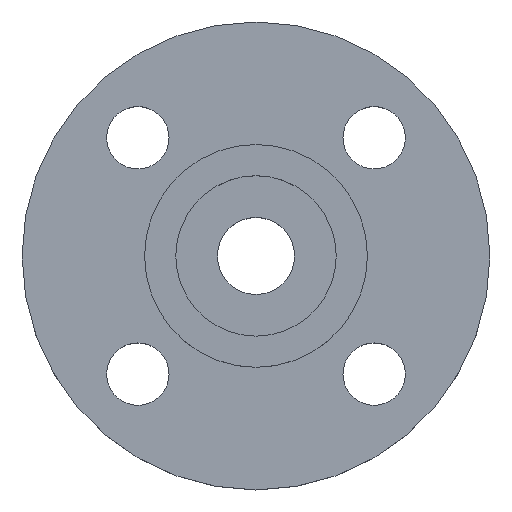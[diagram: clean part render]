
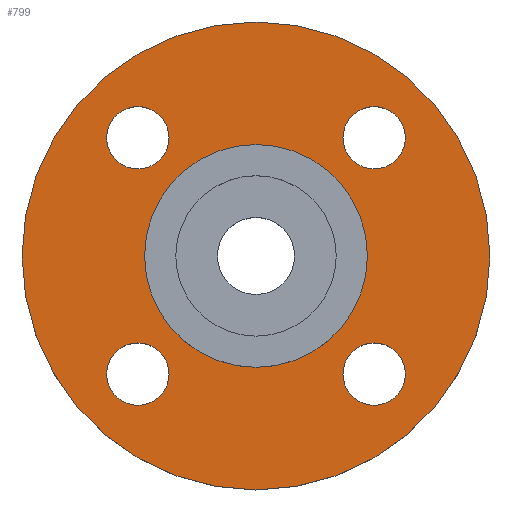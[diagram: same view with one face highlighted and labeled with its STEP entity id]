
A CAD part, top view. The second image highlights one B-rep face of the part: STEP entity #799.
In plain terms, the highlighted planar face has unit normal (0, 0, 1).
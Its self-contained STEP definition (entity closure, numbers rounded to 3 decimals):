
#17 = DIRECTION ( 'NONE',  ( 1., 0., 0. ) ) ;
#18 = DIRECTION ( 'NONE',  ( 0., 0., 1. ) ) ;
#20 = CIRCLE ( 'NONE', #24, 52.5 ) ;
#21 = CARTESIAN_POINT ( 'NONE',  ( 25., 0., -4.5 ) ) ;
#23 = PLANE ( 'NONE',  #630 ) ;
#24 = AXIS2_PLACEMENT_3D ( 'NONE', #64, #62, #61 ) ;
#26 = AXIS2_PLACEMENT_3D ( 'NONE', #48, #43, #42 ) ;
#27 = FACE_OUTER_BOUND ( 'NONE', #496, .T. ) ;
#29 = FACE_BOUND ( 'NONE', #303, .T. ) ;
#30 = FACE_BOUND ( 'NONE', #455, .T. ) ;
#31 = FACE_BOUND ( 'NONE', #535, .T. ) ;
#32 = FACE_BOUND ( 'NONE', #526, .T. ) ;
#34 = FACE_BOUND ( 'NONE', #301, .T. ) ;
#42 = DIRECTION ( 'NONE',  ( 1., 0., 0. ) ) ;
#43 = DIRECTION ( 'NONE',  ( 0., 0., -1. ) ) ;
#48 = CARTESIAN_POINT ( 'NONE',  ( 26.517, -26.517, -4.5 ) ) ;
#61 = DIRECTION ( 'NONE',  ( -1., 0., 0. ) ) ;
#62 = DIRECTION ( 'NONE',  ( 0., 0., -1. ) ) ;
#64 = CARTESIAN_POINT ( 'NONE',  ( 0., 0., -4.5 ) ) ;
#79 = AXIS2_PLACEMENT_3D ( 'NONE', #716, #717, #718 ) ;
#88 = DIRECTION ( 'NONE',  ( 1., 0., 0. ) ) ;
#89 = DIRECTION ( 'NONE',  ( 0., 0., -1. ) ) ;
#90 = CARTESIAN_POINT ( 'NONE',  ( 26.517, -26.517, -4.5 ) ) ;
#100 = CARTESIAN_POINT ( 'NONE',  ( -19.517, -26.517, -4.5 ) ) ;
#103 = EDGE_CURVE ( 'NONE', #316, #516, #440, .T. ) ;
#114 = CARTESIAN_POINT ( 'NONE',  ( -33.517, -26.517, -4.5 ) ) ;
#131 = DIRECTION ( 'NONE',  ( 1., 0., 0. ) ) ;
#132 = DIRECTION ( 'NONE',  ( 0., 0., -1. ) ) ;
#134 = CARTESIAN_POINT ( 'NONE',  ( 26.517, 26.517, -4.5 ) ) ;
#137 = CARTESIAN_POINT ( 'NONE',  ( -19.517, 26.517, -4.5 ) ) ;
#152 = DIRECTION ( 'NONE',  ( 1., 0., 0. ) ) ;
#153 = DIRECTION ( 'NONE',  ( 0., 0., -1. ) ) ;
#157 = CARTESIAN_POINT ( 'NONE',  ( -26.517, -26.517, -4.5 ) ) ;
#159 = CARTESIAN_POINT ( 'NONE',  ( 19.517, 26.517, -4.5 ) ) ;
#176 = CIRCLE ( 'NONE', #26, 7. ) ;
#185 = CARTESIAN_POINT ( 'NONE',  ( -26.517, -26.517, -4.5 ) ) ;
#226 = CARTESIAN_POINT ( 'NONE',  ( -25., 0., -4.5 ) ) ;
#230 = CARTESIAN_POINT ( 'NONE',  ( -52.5, 0., -4.5 ) ) ;
#232 = EDGE_CURVE ( 'NONE', #529, #314, #284, .T. ) ;
#239 = CIRCLE ( 'NONE', #79, 7. ) ;
#241 = DIRECTION ( 'NONE',  ( 0., 0., -1. ) ) ;
#246 = AXIS2_PLACEMENT_3D ( 'NONE', #657, #658, #659 ) ;
#251 = EDGE_CURVE ( 'NONE', #306, #536, #275, .T. ) ;
#257 = CIRCLE ( 'NONE', #271, 7. ) ;
#269 = VERTEX_POINT ( 'NONE', #679 ) ;
#271 = AXIS2_PLACEMENT_3D ( 'NONE', #90, #89, #88 ) ;
#275 = CIRCLE ( 'NONE', #387, 7. ) ;
#281 = EDGE_CURVE ( 'NONE', #533, #312, #502, .T. ) ;
#284 = CIRCLE ( 'NONE', #246, 7. ) ;
#285 = CIRCLE ( 'NONE', #289, 7. ) ;
#289 = AXIS2_PLACEMENT_3D ( 'NONE', #157, #153, #152 ) ;
#301 = EDGE_LOOP ( 'NONE', ( #414, #415 ) ) ;
#303 = EDGE_LOOP ( 'NONE', ( #423, #424 ) ) ;
#306 = VERTEX_POINT ( 'NONE', #708 ) ;
#309 = EDGE_CURVE ( 'NONE', #536, #306, #239, .T. ) ;
#310 = AXIS2_PLACEMENT_3D ( 'NONE', #185, #241, #385 ) ;
#311 = VERTEX_POINT ( 'NONE', #720 ) ;
#312 = VERTEX_POINT ( 'NONE', #721 ) ;
#314 = VERTEX_POINT ( 'NONE', #722 ) ;
#316 = VERTEX_POINT ( 'NONE', #735 ) ;
#321 = EDGE_CURVE ( 'NONE', #312, #533, #763, .T. ) ;
#340 = AXIS2_PLACEMENT_3D ( 'NONE', #134, #132, #131 ) ;
#368 = EDGE_CURVE ( 'NONE', #568, #560, #285, .T. ) ;
#385 = DIRECTION ( 'NONE',  ( 1., 0., 0. ) ) ;
#387 = AXIS2_PLACEMENT_3D ( 'NONE', #785, #787, #788 ) ;
#414 = ORIENTED_EDGE ( 'NONE', *, *, #584, .T. ) ;
#415 = ORIENTED_EDGE ( 'NONE', *, *, #780, .T. ) ;
#416 = ORIENTED_EDGE ( 'NONE', *, *, #368, .T. ) ;
#417 = ORIENTED_EDGE ( 'NONE', *, *, #515, .T. ) ;
#418 = ORIENTED_EDGE ( 'NONE', *, *, #309, .T. ) ;
#419 = ORIENTED_EDGE ( 'NONE', *, *, #251, .T. ) ;
#420 = ORIENTED_EDGE ( 'NONE', *, *, #541, .T. ) ;
#422 = ORIENTED_EDGE ( 'NONE', *, *, #232, .T. ) ;
#423 = ORIENTED_EDGE ( 'NONE', *, *, #281, .T. ) ;
#424 = ORIENTED_EDGE ( 'NONE', *, *, #321, .T. ) ;
#425 = ORIENTED_EDGE ( 'NONE', *, *, #103, .F. ) ;
#427 = ORIENTED_EDGE ( 'NONE', *, *, #636, .F. ) ;
#440 = CIRCLE ( 'NONE', #442, 52.5 ) ;
#442 = AXIS2_PLACEMENT_3D ( 'NONE', #598, #603, #604 ) ;
#455 = EDGE_LOOP ( 'NONE', ( #420, #422 ) ) ;
#465 = AXIS2_PLACEMENT_3D ( 'NONE', #740, #741, #742 ) ;
#481 = AXIS2_PLACEMENT_3D ( 'NONE', #687, #688, #689 ) ;
#496 = EDGE_LOOP ( 'NONE', ( #425, #427 ) ) ;
#502 = CIRCLE ( 'NONE', #481, 25. ) ;
#515 = EDGE_CURVE ( 'NONE', #560, #568, #571, .T. ) ;
#516 = VERTEX_POINT ( 'NONE', #230 ) ;
#526 = EDGE_LOOP ( 'NONE', ( #416, #417 ) ) ;
#529 = VERTEX_POINT ( 'NONE', #159 ) ;
#533 = VERTEX_POINT ( 'NONE', #226 ) ;
#535 = EDGE_LOOP ( 'NONE', ( #418, #419 ) ) ;
#536 = VERTEX_POINT ( 'NONE', #137 ) ;
#541 = EDGE_CURVE ( 'NONE', #314, #529, #613, .T. ) ;
#560 = VERTEX_POINT ( 'NONE', #114 ) ;
#568 = VERTEX_POINT ( 'NONE', #100 ) ;
#571 = CIRCLE ( 'NONE', #310, 7. ) ;
#584 = EDGE_CURVE ( 'NONE', #311, #269, #257, .T. ) ;
#598 = CARTESIAN_POINT ( 'NONE',  ( 0., 0., -4.5 ) ) ;
#603 = DIRECTION ( 'NONE',  ( 0., 0., -1. ) ) ;
#604 = DIRECTION ( 'NONE',  ( -1., 0., 0. ) ) ;
#613 = CIRCLE ( 'NONE', #340, 7. ) ;
#630 = AXIS2_PLACEMENT_3D ( 'NONE', #21, #18, #17 ) ;
#636 = EDGE_CURVE ( 'NONE', #516, #316, #20, .T. ) ;
#657 = CARTESIAN_POINT ( 'NONE',  ( 26.517, 26.517, -4.5 ) ) ;
#658 = DIRECTION ( 'NONE',  ( 0., 0., -1. ) ) ;
#659 = DIRECTION ( 'NONE',  ( 1., 0., 0. ) ) ;
#679 = CARTESIAN_POINT ( 'NONE',  ( 19.517, -26.517, -4.5 ) ) ;
#687 = CARTESIAN_POINT ( 'NONE',  ( 0., 0., -4.5 ) ) ;
#688 = DIRECTION ( 'NONE',  ( 0., 0., -1. ) ) ;
#689 = DIRECTION ( 'NONE',  ( -1., 0., 0. ) ) ;
#708 = CARTESIAN_POINT ( 'NONE',  ( -33.517, 26.517, -4.5 ) ) ;
#716 = CARTESIAN_POINT ( 'NONE',  ( -26.517, 26.517, -4.5 ) ) ;
#717 = DIRECTION ( 'NONE',  ( 0., 0., -1. ) ) ;
#718 = DIRECTION ( 'NONE',  ( 1., 0., 0. ) ) ;
#720 = CARTESIAN_POINT ( 'NONE',  ( 33.517, -26.517, -4.5 ) ) ;
#721 = CARTESIAN_POINT ( 'NONE',  ( 25., 0., -4.5 ) ) ;
#722 = CARTESIAN_POINT ( 'NONE',  ( 33.517, 26.517, -4.5 ) ) ;
#735 = CARTESIAN_POINT ( 'NONE',  ( 52.5, 0., -4.5 ) ) ;
#740 = CARTESIAN_POINT ( 'NONE',  ( 0., 0., -4.5 ) ) ;
#741 = DIRECTION ( 'NONE',  ( 0., 0., -1. ) ) ;
#742 = DIRECTION ( 'NONE',  ( -1., 0., 0. ) ) ;
#763 = CIRCLE ( 'NONE', #465, 25. ) ;
#780 = EDGE_CURVE ( 'NONE', #269, #311, #176, .T. ) ;
#785 = CARTESIAN_POINT ( 'NONE',  ( -26.517, 26.517, -4.5 ) ) ;
#787 = DIRECTION ( 'NONE',  ( 0., 0., -1. ) ) ;
#788 = DIRECTION ( 'NONE',  ( 1., 0., 0. ) ) ;
#799 = ADVANCED_FACE ( 'NONE', ( #34, #32, #31, #30, #29, #27 ), #23, .T. ) ;
